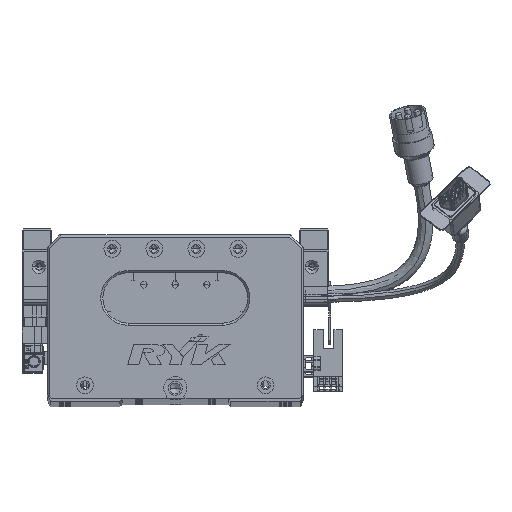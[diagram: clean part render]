
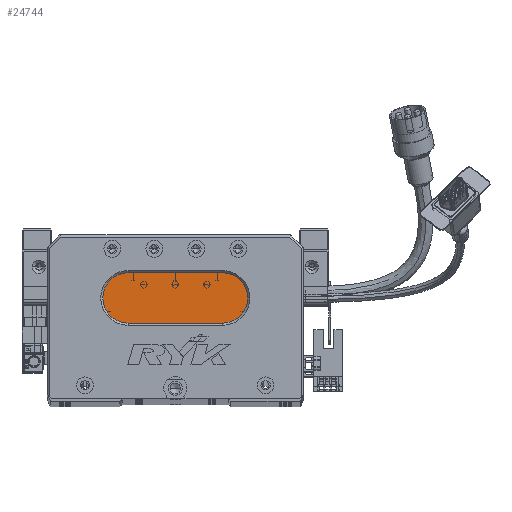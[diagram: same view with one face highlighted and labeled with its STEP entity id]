
A CAD part, top view. The second image highlights one B-rep face of the part: STEP entity #24744.
In plain terms, the highlighted planar face has unit normal (0, 0, 1) as drawn and (0, 0, -1) by its records, which use the part's own axes.
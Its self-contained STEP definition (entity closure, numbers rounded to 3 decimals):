
#402 = CARTESIAN_POINT ( 'NONE',  ( 83.5, 48., 13. ) ) ;
#1261 = EDGE_CURVE ( 'NONE', #55195, #89692, #88553, .T. ) ;
#6875 = VECTOR ( 'NONE', #94444, 1000. ) ;
#7767 = EDGE_CURVE ( 'NONE', #89692, #52361, #25204, .T. ) ;
#10149 = LINE ( 'NONE', #46740, #35342 ) ;
#11035 = DIRECTION ( 'NONE',  ( -1., 0., 0. ) ) ;
#12045 = CIRCLE ( 'NONE', #37793, 12. ) ;
#12070 = CARTESIAN_POINT ( 'NONE',  ( 38.5, 60., 13. ) ) ;
#16065 = LINE ( 'NONE', #58517, #6875 ) ;
#16184 = AXIS2_PLACEMENT_3D ( 'NONE', #402, #44928, #94971 ) ;
#17760 = DIRECTION ( 'NONE',  ( -1., 0., 0. ) ) ;
#20119 = CARTESIAN_POINT ( 'NONE',  ( 26.5, 48., 13. ) ) ;
#20632 = EDGE_CURVE ( 'NONE', #90255, #55195, #10149, .T. ) ;
#22267 = ORIENTED_EDGE ( 'NONE', *, *, #25733, .T. ) ;
#24744 = ADVANCED_FACE ( 'NONE', ( #54086 ), #88806, .T. ) ;
#25204 = CIRCLE ( 'NONE', #73794, 12. ) ;
#25733 = EDGE_CURVE ( 'NONE', #52361, #78706, #16065, .T. ) ;
#26384 = DIRECTION ( 'NONE',  ( 0., 0., -1. ) ) ;
#27929 = EDGE_LOOP ( 'NONE', ( #46285, #48668, #37732, #67139, #22267 ) ) ;
#29370 = DIRECTION ( 'NONE',  ( -1., 0., 0. ) ) ;
#31232 = DIRECTION ( 'NONE',  ( 0., 0., -1. ) ) ;
#33125 = CARTESIAN_POINT ( 'NONE',  ( 83.5, 48., 13. ) ) ;
#35342 = VECTOR ( 'NONE', #45796, 1000. ) ;
#37732 = ORIENTED_EDGE ( 'NONE', *, *, #1261, .T. ) ;
#37793 = AXIS2_PLACEMENT_3D ( 'NONE', #33125, #26384, #11035 ) ;
#38997 = CARTESIAN_POINT ( 'NONE',  ( 83.5, 60., 13. ) ) ;
#44928 = DIRECTION ( 'NONE',  ( 0., 0., -1. ) ) ;
#45796 = DIRECTION ( 'NONE',  ( -1., 0., 0. ) ) ;
#46285 = ORIENTED_EDGE ( 'NONE', *, *, #72888, .T. ) ;
#46740 = CARTESIAN_POINT ( 'NONE',  ( 83.5, 36., 13. ) ) ;
#48668 = ORIENTED_EDGE ( 'NONE', *, *, #20632, .T. ) ;
#52361 = VERTEX_POINT ( 'NONE', #12070 ) ;
#54086 = FACE_OUTER_BOUND ( 'NONE', #27929, .T. ) ;
#55195 = VERTEX_POINT ( 'NONE', #59914 ) ;
#57382 = DIRECTION ( 'NONE',  ( 0., 0., -1. ) ) ;
#58517 = CARTESIAN_POINT ( 'NONE',  ( 83.5, 60., 13. ) ) ;
#58610 = CARTESIAN_POINT ( 'NONE',  ( 38.5, 48., 13. ) ) ;
#59914 = CARTESIAN_POINT ( 'NONE',  ( 38.5, 36., 13. ) ) ;
#61395 = CARTESIAN_POINT ( 'NONE',  ( 38.5, 48., 13. ) ) ;
#67139 = ORIENTED_EDGE ( 'NONE', *, *, #7767, .T. ) ;
#68845 = CARTESIAN_POINT ( 'NONE',  ( 83.5, 36., 13. ) ) ;
#72888 = EDGE_CURVE ( 'NONE', #78706, #90255, #12045, .T. ) ;
#73794 = AXIS2_PLACEMENT_3D ( 'NONE', #58610, #57382, #29370 ) ;
#78706 = VERTEX_POINT ( 'NONE', #38997 ) ;
#80183 = AXIS2_PLACEMENT_3D ( 'NONE', #61395, #31232, #17760 ) ;
#88553 = CIRCLE ( 'NONE', #80183, 12. ) ;
#88806 = PLANE ( 'NONE',  #16184 ) ;
#89692 = VERTEX_POINT ( 'NONE', #20119 ) ;
#90255 = VERTEX_POINT ( 'NONE', #68845 ) ;
#94444 = DIRECTION ( 'NONE',  ( 1., 0., 0. ) ) ;
#94971 = DIRECTION ( 'NONE',  ( -1., 0., 0. ) ) ;
